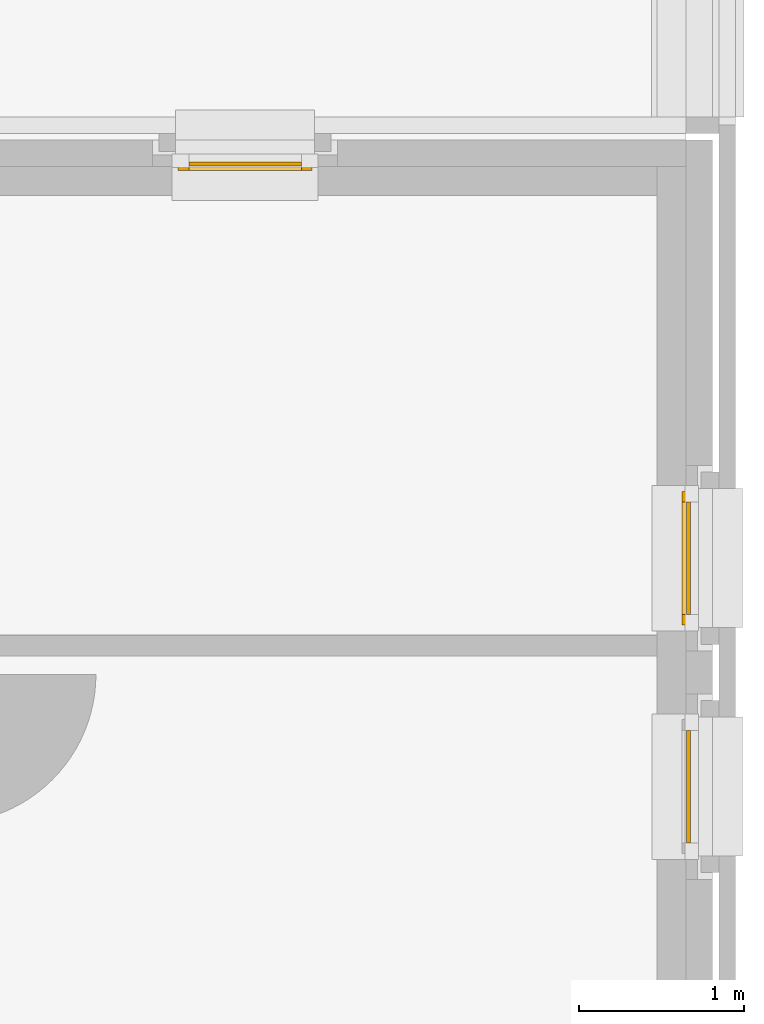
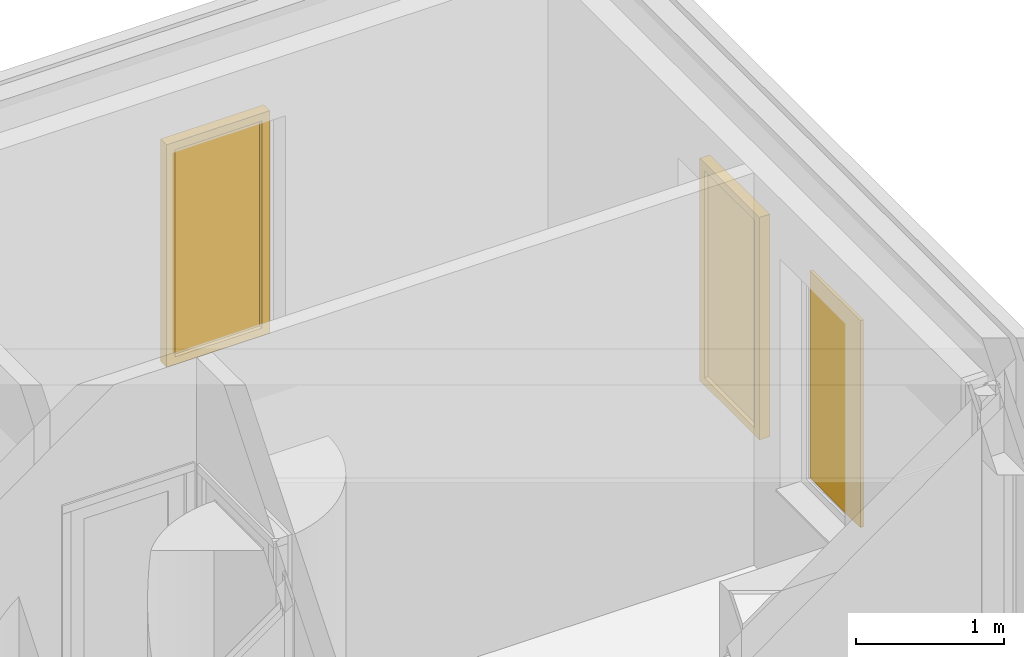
# One storey, part 72 of 128: 5 windows, 2 elements without a shape of their own.
"""IFC2X3 building model written with IfcOpenShell, lengths in millimetres."""

from ifc_helpers import new_model, entity, si_unit, converted_unit, derived_unit, direction, frame, origin, origin_2d_with_axis, place, context, subcontext, project, spatial, polyline, rectangle, outline, extrude, source, transform, mapped, material, type_object, type_shapes, element, aggregate, save


model = new_model("IFC2X3")

# Units and contexts
model_context = context("Model", 3, precision=0.01, world=origin(), true_north=direction((6.123031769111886e-17, 1.0)))
body_context = subcontext(model_context, "Body", "Model", "MODEL_VIEW")
ifc_project = project(units=[si_unit("LENGTHUNIT", "METRE", prefix="MILLI"), si_unit("AREAUNIT", "SQUARE_METRE"), si_unit("VOLUMEUNIT", "CUBIC_METRE"), converted_unit("PLANEANGLEUNIT", "DEGREE", entity("IfcRatioMeasure", 0.017453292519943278), si_unit("PLANEANGLEUNIT", "RADIAN"), dimensions=[0, 0, 0, 0, 0, 0, 0]), si_unit("MASSUNIT", "GRAM", prefix="KILO"), derived_unit("MASSDENSITYUNIT", [(si_unit("MASSUNIT", "GRAM", prefix="KILO"), 1), (si_unit("LENGTHUNIT", "METRE"), -3)]), derived_unit("IONCONCENTRATIONUNIT", [(si_unit("MASSUNIT", "GRAM", prefix="KILO"), 1), (si_unit("LENGTHUNIT", "METRE"), -3)]), derived_unit("MOMENTOFINERTIAUNIT", [(si_unit("LENGTHUNIT", "METRE"), 4)]), si_unit("TIMEUNIT", "SECOND"), si_unit("FREQUENCYUNIT", "HERTZ"), si_unit("THERMODYNAMICTEMPERATUREUNIT", "DEGREE_CELSIUS"), derived_unit("THERMALTRANSMITTANCEUNIT", [(si_unit("MASSUNIT", "GRAM", prefix="KILO"), 1), (si_unit("THERMODYNAMICTEMPERATUREUNIT", "KELVIN"), -1), (si_unit("TIMEUNIT", "SECOND"), -3)]), derived_unit("THERMALCONDUCTANCEUNIT", [(si_unit("MASSUNIT", "GRAM", prefix="KILO"), 1), (si_unit("THERMODYNAMICTEMPERATUREUNIT", "KELVIN"), -1), (si_unit("TIMEUNIT", "SECOND"), -3), (si_unit("LENGTHUNIT", "METRE"), 1)]), derived_unit("VOLUMETRICFLOWRATEUNIT", [(si_unit("LENGTHUNIT", "METRE"), 3), (si_unit("TIMEUNIT", "SECOND"), -1)]), derived_unit("MASSFLOWRATEUNIT", [(si_unit("MASSUNIT", "GRAM", prefix="KILO"), 1), (si_unit("TIMEUNIT", "SECOND"), -1)]), derived_unit("ROTATIONALFREQUENCYUNIT", [(si_unit("TIMEUNIT", "SECOND"), -1)]), si_unit("ELECTRICCURRENTUNIT", "AMPERE"), si_unit("ELECTRICVOLTAGEUNIT", "VOLT"), si_unit("POWERUNIT", "WATT"), si_unit("FORCEUNIT", "NEWTON", prefix="KILO"), si_unit("ILLUMINANCEUNIT", "LUX"), si_unit("LUMINOUSFLUXUNIT", "LUMEN"), si_unit("LUMINOUSINTENSITYUNIT", "CANDELA"), derived_unit("USERDEFINED", [(si_unit("MASSUNIT", "GRAM", prefix="KILO"), -1), (si_unit("LENGTHUNIT", "METRE"), -2), (si_unit("TIMEUNIT", "SECOND"), 3), (si_unit("LUMINOUSFLUXUNIT", "LUMEN"), 1)]), derived_unit("USERDEFINED", [(si_unit("MASSUNIT", "GRAM", prefix="KILO"), 1), (si_unit("TIMEUNIT", "SECOND"), -3), (si_unit("LENGTHUNIT", "METRE"), 3), (si_unit("ELECTRICCURRENTUNIT", "AMPERE"), -2)]), derived_unit("SOUNDPOWERUNIT", [(si_unit("MASSUNIT", "GRAM", prefix="KILO"), 1), (si_unit("TIMEUNIT", "SECOND"), -3), (si_unit("LENGTHUNIT", "METRE"), 2)]), derived_unit("SOUNDPRESSUREUNIT", [(si_unit("MASSUNIT", "GRAM", prefix="KILO"), 1), (si_unit("LENGTHUNIT", "METRE"), -1), (si_unit("TIMEUNIT", "SECOND"), -2)]), derived_unit("LINEARVELOCITYUNIT", [(si_unit("LENGTHUNIT", "METRE"), 1), (si_unit("TIMEUNIT", "SECOND"), -1)]), si_unit("PRESSUREUNIT", "PASCAL"), derived_unit("USERDEFINED", [(si_unit("MASSUNIT", "GRAM", prefix="KILO"), 1), (si_unit("LENGTHUNIT", "METRE"), -2), (si_unit("TIMEUNIT", "SECOND"), -2)]), derived_unit("LINEARFORCEUNIT", [(si_unit("MASSUNIT", "GRAM", prefix="KILO"), 1), (si_unit("TIMEUNIT", "SECOND"), -2)]), derived_unit("PLANARFORCEUNIT", [(si_unit("MASSUNIT", "GRAM", prefix="KILO"), 1), (si_unit("LENGTHUNIT", "METRE"), -1), (si_unit("TIMEUNIT", "SECOND"), -2)]), derived_unit("SPECIFICHEATCAPACITYUNIT", [(si_unit("THERMODYNAMICTEMPERATUREUNIT", "KELVIN"), -1), (si_unit("LENGTHUNIT", "METRE"), 2), (si_unit("TIMEUNIT", "SECOND"), -2)]), derived_unit("HEATINGVALUEUNIT", [(si_unit("LENGTHUNIT", "METRE"), 2), (si_unit("TIMEUNIT", "SECOND"), -2)]), derived_unit("VAPORPERMEABILITYUNIT", [(si_unit("LENGTHUNIT", "METRE"), -1), (si_unit("TIMEUNIT", "SECOND"), 1)]), derived_unit("DYNAMICVISCOSITYUNIT", [(si_unit("MASSUNIT", "GRAM", prefix="KILO"), 1), (si_unit("TIMEUNIT", "SECOND"), -1), (si_unit("LENGTHUNIT", "METRE"), -1)]), derived_unit("THERMALEXPANSIONCOEFFICIENTUNIT", [(si_unit("THERMODYNAMICTEMPERATUREUNIT", "KELVIN"), -1)]), derived_unit("MODULUSOFELASTICITYUNIT", [(si_unit("MASSUNIT", "GRAM", prefix="KILO"), 1), (si_unit("LENGTHUNIT", "METRE"), -1), (si_unit("TIMEUNIT", "SECOND"), -2)]), derived_unit("ISOTHERMALMOISTURECAPACITYUNIT", [(si_unit("LENGTHUNIT", "METRE"), 3), (si_unit("MASSUNIT", "GRAM", prefix="KILO"), -1)]), derived_unit("MOISTUREDIFFUSIVITYUNIT", [(si_unit("TIMEUNIT", "SECOND"), -1), (si_unit("LENGTHUNIT", "METRE"), 2)])], contexts=[model_context])

# Site, building, storey
site_placement = place(None, frame((0.0, 300.0, 0.0)))
site = spatial("IfcSite", under=ifc_project, at=site_placement, Name="<Kadastrale nummers>", CompositionType="ELEMENT")
building_placement = place(site_placement, origin())
building = spatial("IfcBuilding", under=site, at=building_placement, CompositionType="ELEMENT")
storey_placement = place(building_placement, frame((0.0, 0.0, 3560.0000331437)))
storey = spatial("IfcBuildingStorey", under=building, at=storey_placement, Name="01 eerste verdieping", CompositionType="ELEMENT", Elevation=3560.0000331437)

# Curtain wall, window
curtain_wall_type = type_object("IfcCurtainWallType", Name="Curtain Wall:K_31", PredefinedType="NOTDEFINED")
curtain_wall_1_placement = place(storey_placement, frame((0.0, 0.0, -3560.0000331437)))
curtain_wall_1 = element("IfcCurtainWall", 1, at=curtain_wall_1_placement, inside=storey, type_object=curtain_wall_type, Name="Curtain Wall:K_31", ObjectType="Curtain Wall:K_31")
ifc_material_1 = material(Name="ISR_Aluminium")
window_style_1 = type_object("IfcWindowStyle", Name="31_WI_raam_1:GEALAN KUBUS RAAM", ConstructionType="NOTDEFINED", OperationType="NOTDEFINED", ParameterTakesPrecedence=False, Sizeable=False, material=ifc_material_1)
shared_shape_1 = source(origin(), body_context, "Body", "SweptSolid", [
    extrude(outline(polyline([(-404.0, -919.0), (404.0, -919.0), (404.0, 919.0), (-404.0, 919.0), (-404.0, -919.0)]), holes=[polyline([(-340.0, 855.0), (340.0, 855.0), (340.0, -855.0), (-340.0, -855.0), (-340.0, 855.0)])]), frame((0.0, 63.0, 855.0), z_axis=(0.0, -1.0, 0.0), x_axis=(-1.0, 0.0, 0.0)), (0.0, 0.0, 1.0), 40.50000000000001),
    extrude(outline(polyline([(-404.0, -919.0), (404.0, -919.0), (404.0, 919.0), (-404.0, 919.0), (-404.0, -919.0)]), holes=[polyline([(-340.0, 855.0), (340.0, 855.0), (340.0, -855.0), (-340.0, -855.0), (-340.0, 855.0)])]), frame((0.0, 22.499999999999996, 855.0), z_axis=(0.0, -1.0, 0.0), x_axis=(-1.0, 0.0, 0.0)), (0.0, 0.0, 1.0), 40.5),
])
type_shapes(window_style_1, [shared_shape_1])
window_1_placement = place(curtain_wall_1_placement, frame((46010.0, 46693.0, 4580.0000331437)))
window_1 = element("IfcWindow", 2, at=window_1_placement, type_object=window_style_1, material=ifc_material_1, Name="31_WI_raam_1:GEALAN KUBUS RAAM", ObjectType="31_WI_raam_1:GEALAN KUBUS RAAM", OverallHeight=1853.9999999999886, OverallWidth=808.0000000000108, context=body_context, shape_type="MappedRepresentation", body=[
    mapped(shared_shape_1, transform((0.0, 0.0, 0.0), scale=1.0)),
])
aggregate(curtain_wall_1, [window_1])

curtain_wall_2_placement = place(storey_placement, frame((0.0, 0.0, -3560.0000331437)))
curtain_wall_2 = element("IfcCurtainWall", 3, at=curtain_wall_2_placement, inside=storey, type_object=curtain_wall_type, Name="Curtain Wall:K_31", ObjectType="Curtain Wall:K_31")
window_2_placement = place(curtain_wall_2_placement, frame((48668.0, 44332.12500266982, 4580.0000331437), z_axis=(0.0, 0.0, 1.0), x_axis=(0.0, -1.0, 0.0)))
window_2 = element("IfcWindow", 4, at=window_2_placement, type_object=window_style_1, material=ifc_material_1, Name="31_WI_raam_1:GEALAN KUBUS RAAM", ObjectType="31_WI_raam_1:GEALAN KUBUS RAAM", OverallHeight=1853.9999999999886, OverallWidth=808.0000000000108, context=body_context, shape_type="MappedRepresentation", body=[
    mapped(shared_shape_1, transform((0.0, 0.0, 0.0), scale=1.0)),
])
aggregate(curtain_wall_2, [window_2])

# Windows
ifc_material_2 = material(Name="glas_enscape")
window_style_2 = type_object("IfcWindowStyle", Name="WI_subvak:glas 2", ConstructionType="NOTDEFINED", OperationType="NOTDEFINED", ParameterTakesPrecedence=False, Sizeable=False, material=ifc_material_2)
shared_shape_2 = source(origin(), body_context, "Body", "SweptSolid", [
    extrude(rectangle(XDim=680.0000000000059, YDim=24.00000000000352, at=origin_2d_with_axis()), origin(), (0.0, 0.0, 1.0), 1709.999999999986),
])
type_shapes(window_style_2, [shared_shape_2])
for number, where, z_axis, x_axis, name in (
    (5, (46010.0, 46715.5000000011, 1020.0), (0.0, 0.0, 1.0), (-1.0, 0.0, 0.0), "WI_subvak:glas 2"),
    (6, (48690.50000000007, 42952.12500266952, 1020.0), (0.0, 0.0, 1.0), (0.0, 1.0, 0.0), "WI_subvak:glas 2"),
    (7, (48690.4999999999, 44332.12500266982, 1020.0), (0.0, 0.0, 1.0), (0.0, 1.0, 0.0), "WI_subvak:glas 2"),
):
    element("IfcWindow", number, at=place(storey_placement, frame(where, z_axis=z_axis, x_axis=x_axis)), inside=storey, type_object=window_style_2, material=ifc_material_2, Name=name, ObjectType="WI_subvak:glas 2", OverallHeight=609.9286498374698, OverallWidth=680.0000000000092, context=body_context, shape_type="MappedRepresentation", body=[
        mapped(shared_shape_2, transform((0.0, 0.0, 0.0), scale=1.0)),
    ])

save(model, "model.ifc")
